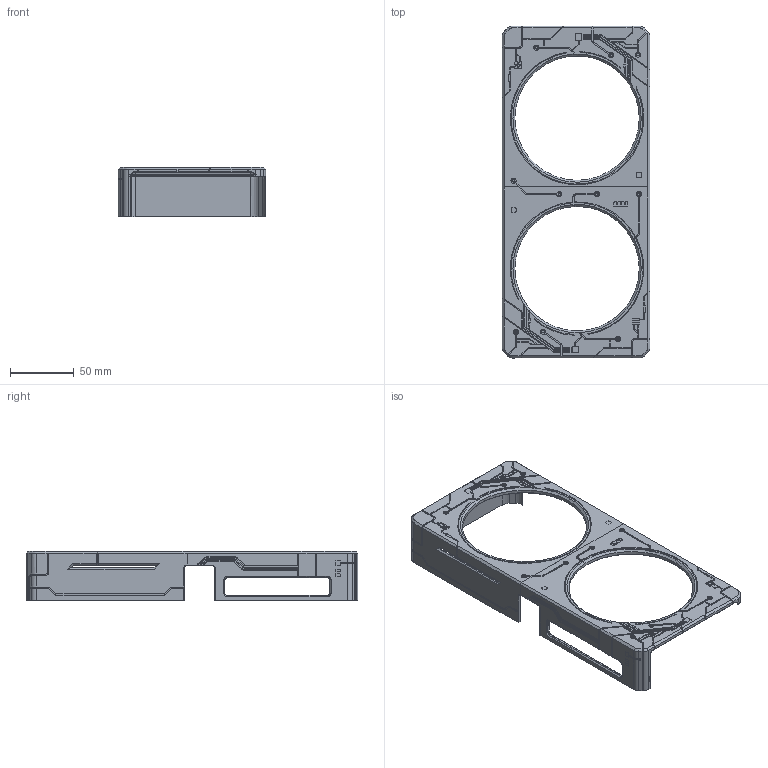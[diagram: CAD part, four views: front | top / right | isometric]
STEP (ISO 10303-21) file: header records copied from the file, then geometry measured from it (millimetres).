
FILE_DESCRIPTION((''),'2;1');
FILE_NAME('F330-1B0-COVER_FEEDBACK_DRAFT_2','2025-08-07T13:55:14',('Kate'),(''),'CREO PARAMETRIC BY PTC INC, 2021304','CREO PARAMETRIC BY PTC INC, 2021304','');
FILE_SCHEMA(('AUTOMOTIVE_DESIGN { 1 0 10303 214 1 1 1 1 }'));
Length unit declared in the file: millimetre
Products named in the file (1): F330-1B0-COVER_FEEDBACK_DRAFT_2
Bounding box: 115.7 x 260.2 x 39 mm (x, y, z)
Volume: 59437.3 mm3; surface area: 63834.8 mm2
Topology: 2 solids, 2 shells, 1250 faces, 3521 edges, 2301 vertices
Faces by surface type: plane 683, cylinder 380, torus 79, bspline 49, extrusion 35, cone 20, revolution 4
Entity records: 46110 total; most frequent: CARTESIAN_POINT 13321, ORIENTED_EDGE 7042, DIRECTION 6302, EDGE_CURVE 3521, VERTEX_POINT 2301, VECTOR 2288, LINE 2253, AXIS2_PLACEMENT_3D 2005
